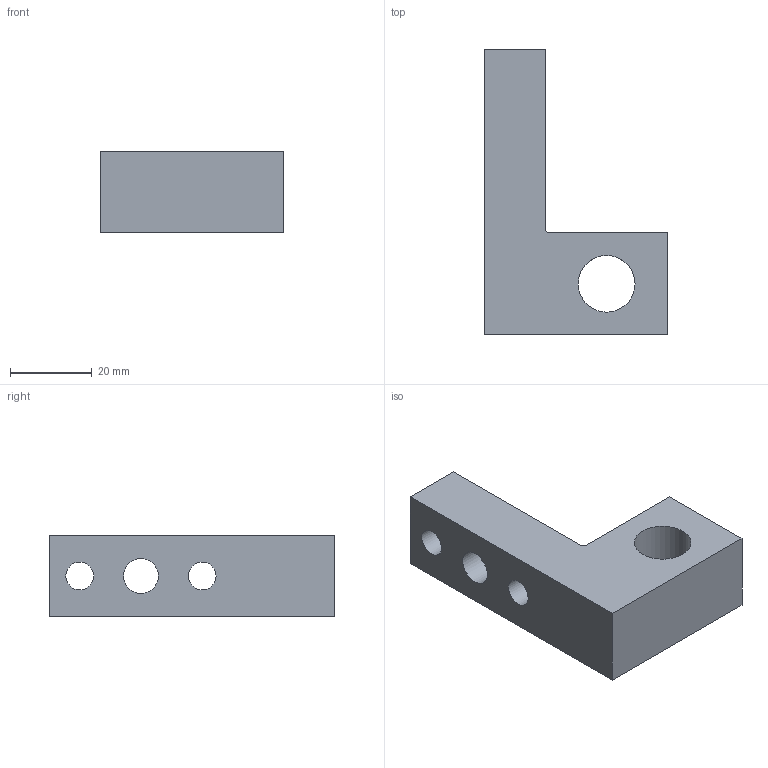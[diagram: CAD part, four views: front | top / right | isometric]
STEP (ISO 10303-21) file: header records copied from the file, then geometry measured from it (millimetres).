
FILE_DESCRIPTION(/* description */ (''),/* implementation_level */ '2;1');
FILE_NAME(/* name */ 'C:\Local Work Area\Progetti\AP\CALIBRI\03 Portacomparatore\03.09.stp',/* time_stamp */ '2015-04-01T09:04:22+02:00',/* author */ ('CAD5'),/* organization */ (''),/* preprocessor_version */ 'ST-DEVELOPER v15.2',/* originating_system */ 'Autodesk Inventor 2014',/* authorisation */ '');
FILE_SCHEMA (('AUTOMOTIVE_DESIGN { 1 0 10303 214 3 1 1 }'));
Length unit declared in the file: millimetre
Products named in the file (1): 03.09
Bounding box: 45 x 70 x 20 mm (x, y, z)
Volume: 31021.2 mm3; surface area: 9544.7 mm2
Topology: 1 solids, 1 shells, 13 faces, 37 edges, 26 vertices
Faces by surface type: plane 8, cylinder 5
Full cylindrical faces by diameter (mm): 6.8 x2, 8.5 x1, 13.917 x1
Entity records: 417 total; most frequent: DIRECTION 67, CARTESIAN_POINT 65, ORIENTED_EDGE 58, EDGE_CURVE 29, EDGE_LOOP 25, AXIS2_PLACEMENT_3D 24, VERTEX_POINT 22, LINE 19
